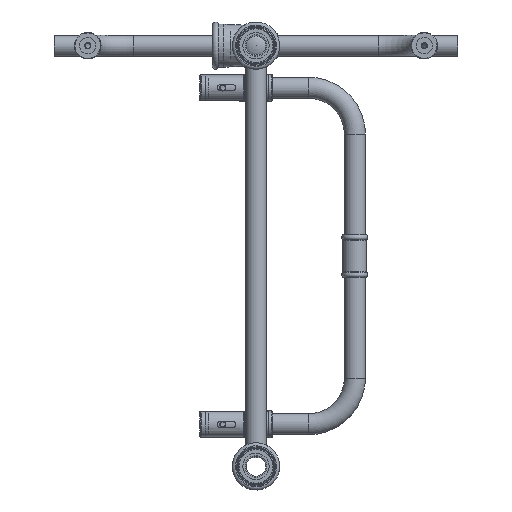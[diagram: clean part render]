
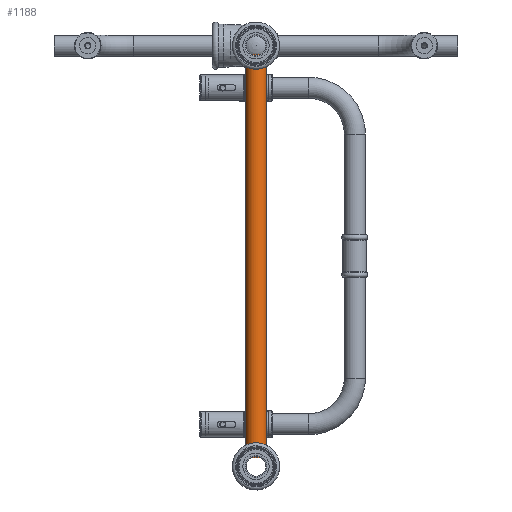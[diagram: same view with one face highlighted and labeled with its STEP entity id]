
A CAD part, front view. The second image highlights one B-rep face of the part: STEP entity #1188.
In plain terms, the highlighted cylindrical face has radius 10 mm (diameter 20 mm), a full revolution.
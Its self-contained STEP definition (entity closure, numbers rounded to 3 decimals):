
#1188 = ADVANCED_FACE( '', ( #2529, #2530 ), #2531, .T. );
#2529 = FACE_OUTER_BOUND( '', #4373, .T. );
#2530 = FACE_OUTER_BOUND( '', #4374, .T. );
#2531 = CYLINDRICAL_SURFACE( '', #4375, 10. );
#4373 = EDGE_LOOP( '', ( #6469 ) );
#4374 = EDGE_LOOP( '', ( #6470 ) );
#4375 = AXIS2_PLACEMENT_3D( '', #6471, #6472, #6473 );
#6469 = ORIENTED_EDGE( '', *, *, #8161, .T. );
#6470 = ORIENTED_EDGE( '', *, *, #8162, .F. );
#6471 = CARTESIAN_POINT( '', ( 192., 0., 0. ) );
#6472 = DIRECTION( '', ( 1., 0., 0. ) );
#6473 = DIRECTION( '', ( 0., 0., 1. ) );
#8161 = EDGE_CURVE( '', #9243, #9243, #9244, .T. );
#8162 = EDGE_CURVE( '', #9245, #9245, #9246, .T. );
#9243 = VERTEX_POINT( '', #15567 );
#9244 = CIRCLE( '', #15568, 10. );
#9245 = VERTEX_POINT( '', #15569 );
#9246 = CIRCLE( '', #15570, 10. );
#15567 = CARTESIAN_POINT( '', ( 192., 10., 0. ) );
#15568 = AXIS2_PLACEMENT_3D( '', #19016, #19017, #19018 );
#15569 = CARTESIAN_POINT( '', ( -192., 10., 0. ) );
#15570 = AXIS2_PLACEMENT_3D( '', #19019, #19020, #19021 );
#19016 = CARTESIAN_POINT( '', ( 192., 0., 0. ) );
#19017 = DIRECTION( '', ( -1., 0., 0. ) );
#19018 = DIRECTION( '', ( 0., 1., 0. ) );
#19019 = CARTESIAN_POINT( '', ( -192., 0., 0. ) );
#19020 = DIRECTION( '', ( -1., 0., 0. ) );
#19021 = DIRECTION( '', ( 0., 1., 0. ) );
